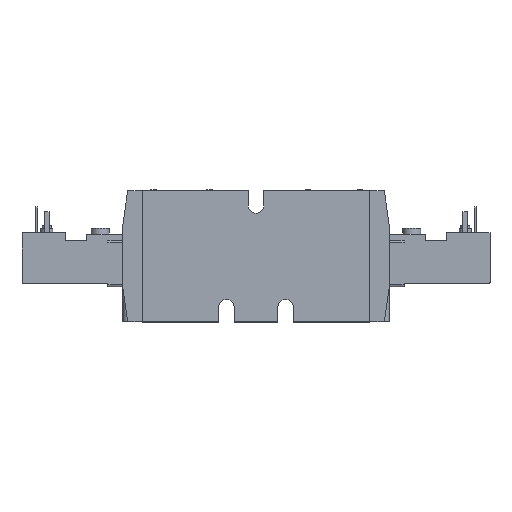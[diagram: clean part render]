
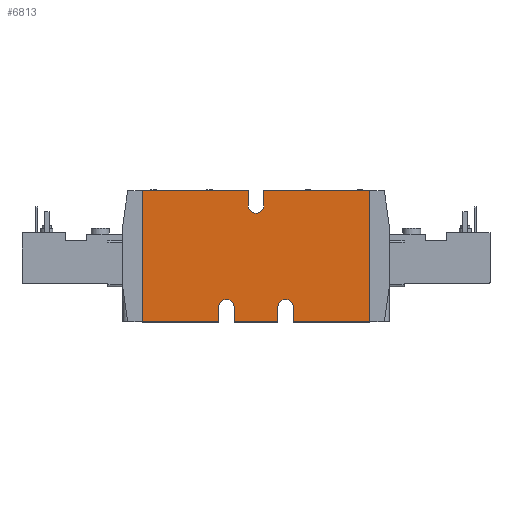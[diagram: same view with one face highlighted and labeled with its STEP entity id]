
A CAD part, top view. The second image highlights one B-rep face of the part: STEP entity #6813.
In plain terms, the highlighted planar face has unit normal (0, 0, 1).
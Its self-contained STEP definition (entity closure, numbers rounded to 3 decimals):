
#134=CARTESIAN_POINT('',(12.,-20.5,10.5));
#135=DIRECTION('',(0.,0.,1.));
#136=DIRECTION('',(1.,0.,0.));
#137=AXIS2_PLACEMENT_3D('',#134,#135,#136);
#139=DIRECTION('',(0.,1.,0.));
#140=VECTOR('',#139,6.1);
#141=CARTESIAN_POINT('',(8.9,-26.6,10.5));
#142=LINE('',#141,#140);
#143=DIRECTION('',(1.,0.,0.));
#144=VECTOR('',#143,17.8);
#145=CARTESIAN_POINT('',(-8.9,-26.6,10.5));
#146=LINE('',#145,#144);
#147=DIRECTION('',(0.,1.,0.));
#148=VECTOR('',#147,6.1);
#149=CARTESIAN_POINT('',(-8.9,-26.6,10.5));
#150=LINE('',#149,#148);
#151=CARTESIAN_POINT('',(-12.,-20.5,10.5));
#152=DIRECTION('',(0.,0.,1.));
#153=DIRECTION('',(1.,0.,0.));
#154=AXIS2_PLACEMENT_3D('',#151,#152,#153);
#156=DIRECTION('',(0.,1.,0.));
#157=VECTOR('',#156,6.1);
#158=CARTESIAN_POINT('',(-15.1,-26.6,10.5));
#159=LINE('',#158,#157);
#160=DIRECTION('',(1.,0.,0.));
#161=VECTOR('',#160,30.9);
#162=CARTESIAN_POINT('',(-46.,-26.6,10.5));
#163=LINE('',#162,#161);
#164=DIRECTION('',(0.,-1.,0.));
#165=VECTOR('',#164,53.2);
#166=CARTESIAN_POINT('',(-46.,26.6,10.5));
#167=LINE('',#166,#165);
#168=DIRECTION('',(-1.,0.,0.));
#169=VECTOR('',#168,42.9);
#170=CARTESIAN_POINT('',(-3.1,26.6,10.5));
#171=LINE('',#170,#169);
#172=DIRECTION('',(0.,-1.,0.));
#173=VECTOR('',#172,6.1);
#174=CARTESIAN_POINT('',(-3.1,26.6,10.5));
#175=LINE('',#174,#173);
#176=CARTESIAN_POINT('',(0.,20.5,10.5));
#177=DIRECTION('',(0.,0.,1.));
#178=DIRECTION('',(-1.,0.,0.));
#179=AXIS2_PLACEMENT_3D('',#176,#177,#178);
#181=DIRECTION('',(0.,-1.,0.));
#182=VECTOR('',#181,6.1);
#183=CARTESIAN_POINT('',(3.1,26.6,10.5));
#184=LINE('',#183,#182);
#185=DIRECTION('',(-1.,0.,0.));
#186=VECTOR('',#185,42.9);
#187=CARTESIAN_POINT('',(46.,26.6,10.5));
#188=LINE('',#187,#186);
#189=DIRECTION('',(0.,1.,0.));
#190=VECTOR('',#189,53.2);
#191=CARTESIAN_POINT('',(46.,-26.6,10.5));
#192=LINE('',#191,#190);
#193=DIRECTION('',(1.,0.,0.));
#194=VECTOR('',#193,30.9);
#195=CARTESIAN_POINT('',(15.1,-26.6,10.5));
#196=LINE('',#195,#194);
#197=DIRECTION('',(0.,1.,0.));
#198=VECTOR('',#197,6.1);
#199=CARTESIAN_POINT('',(15.1,-26.6,10.5));
#200=LINE('',#199,#198);
#5085=CARTESIAN_POINT('',(-46.,26.6,10.5));
#5086=CARTESIAN_POINT('',(-46.,-26.6,10.5));
#5087=VERTEX_POINT('',#5085);
#5088=VERTEX_POINT('',#5086);
#5089=CARTESIAN_POINT('',(46.,-26.6,10.5));
#5090=CARTESIAN_POINT('',(46.,26.6,10.5));
#5091=VERTEX_POINT('',#5089);
#5092=VERTEX_POINT('',#5090);
#5109=CARTESIAN_POINT('',(15.1,-20.5,10.5));
#5110=CARTESIAN_POINT('',(8.9,-20.5,10.5));
#5111=VERTEX_POINT('',#5109);
#5112=VERTEX_POINT('',#5110);
#5113=CARTESIAN_POINT('',(8.9,-26.6,10.5));
#5114=VERTEX_POINT('',#5113);
#5115=CARTESIAN_POINT('',(15.1,-26.6,10.5));
#5116=VERTEX_POINT('',#5115);
#5117=CARTESIAN_POINT('',(-15.1,-26.6,10.5));
#5118=CARTESIAN_POINT('',(-15.1,-20.5,10.5));
#5119=VERTEX_POINT('',#5117);
#5120=VERTEX_POINT('',#5118);
#5121=CARTESIAN_POINT('',(-8.9,-26.6,10.5));
#5122=CARTESIAN_POINT('',(-8.9,-20.5,10.5));
#5123=VERTEX_POINT('',#5121);
#5124=VERTEX_POINT('',#5122);
#5677=CARTESIAN_POINT('',(3.1,26.6,10.5));
#5678=CARTESIAN_POINT('',(3.1,20.5,10.5));
#5679=VERTEX_POINT('',#5677);
#5680=VERTEX_POINT('',#5678);
#5681=CARTESIAN_POINT('',(-3.1,26.6,10.5));
#5682=CARTESIAN_POINT('',(-3.1,20.5,10.5));
#5683=VERTEX_POINT('',#5681);
#5684=VERTEX_POINT('',#5682);
#6782=CARTESIAN_POINT('',(0.,0.,10.5));
#6783=DIRECTION('',(0.,0.,1.));
#6784=DIRECTION('',(1.,0.,0.));
#6785=AXIS2_PLACEMENT_3D('',#6782,#6783,#6784);
#6786=PLANE('',#6785);
#6787=ORIENTED_EDGE('',*,*,#6620,.T.);
#6788=ORIENTED_EDGE('',*,*,#6642,.F.);
#6789=ORIENTED_EDGE('',*,*,#6664,.F.);
#6790=ORIENTED_EDGE('',*,*,#6728,.T.);
#6791=ORIENTED_EDGE('',*,*,#6749,.T.);
#6792=ORIENTED_EDGE('',*,*,#6769,.F.);
#6793=ORIENTED_EDGE('',*,*,#6708,.F.);
#6795=ORIENTED_EDGE('',*,*,#6794,.F.);
#6797=ORIENTED_EDGE('',*,*,#6796,.F.);
#6799=ORIENTED_EDGE('',*,*,#6798,.T.);
#6801=ORIENTED_EDGE('',*,*,#6800,.T.);
#6803=ORIENTED_EDGE('',*,*,#6802,.F.);
#6805=ORIENTED_EDGE('',*,*,#6804,.F.);
#6807=ORIENTED_EDGE('',*,*,#6806,.F.);
#6808=ORIENTED_EDGE('',*,*,#6683,.F.);
#6810=ORIENTED_EDGE('',*,*,#6809,.T.);
#6811=EDGE_LOOP('',(#6787,#6788,#6789,#6790,#6791,#6792,#6793,#6795,#6797,#6799,
#6801,#6803,#6805,#6807,#6808,#6810));
#6812=FACE_OUTER_BOUND('',#6811,.F.);
#6813=ADVANCED_FACE('',(#6812),#6786,.T.);
#138=CIRCLE('',#137,3.1);
#155=CIRCLE('',#154,3.1);
#180=CIRCLE('',#179,3.1);
#6620=EDGE_CURVE('',#5111,#5112,#138,.T.);
#6642=EDGE_CURVE('',#5114,#5112,#142,.T.);
#6664=EDGE_CURVE('',#5123,#5114,#146,.T.);
#6683=EDGE_CURVE('',#5116,#5091,#196,.T.);
#6708=EDGE_CURVE('',#5088,#5119,#163,.T.);
#6728=EDGE_CURVE('',#5123,#5124,#150,.T.);
#6749=EDGE_CURVE('',#5124,#5120,#155,.T.);
#6769=EDGE_CURVE('',#5119,#5120,#159,.T.);
#6794=EDGE_CURVE('',#5087,#5088,#167,.T.);
#6796=EDGE_CURVE('',#5683,#5087,#171,.T.);
#6798=EDGE_CURVE('',#5683,#5684,#175,.T.);
#6800=EDGE_CURVE('',#5684,#5680,#180,.T.);
#6802=EDGE_CURVE('',#5679,#5680,#184,.T.);
#6804=EDGE_CURVE('',#5092,#5679,#188,.T.);
#6806=EDGE_CURVE('',#5091,#5092,#192,.T.);
#6809=EDGE_CURVE('',#5116,#5111,#200,.T.);
